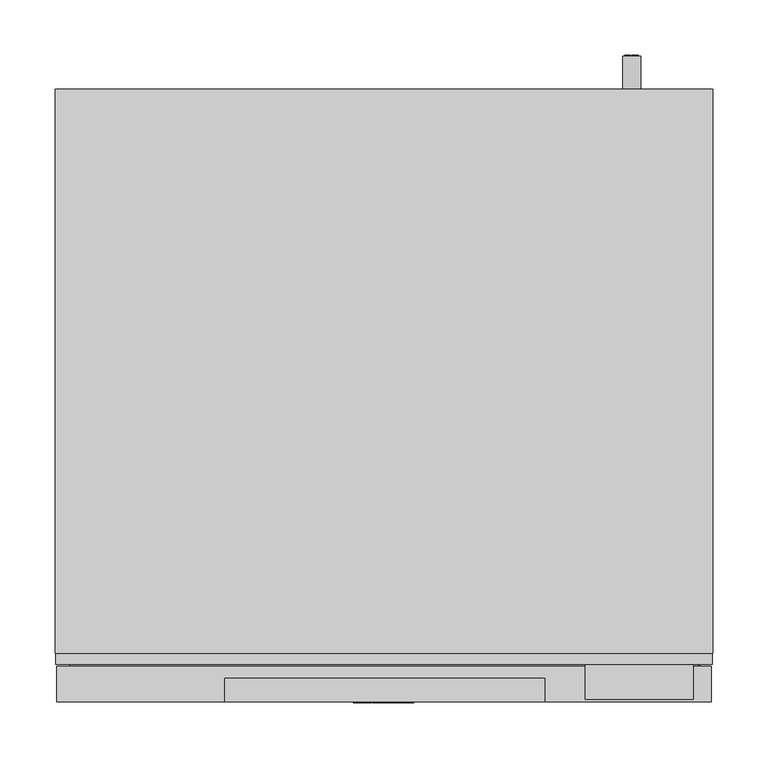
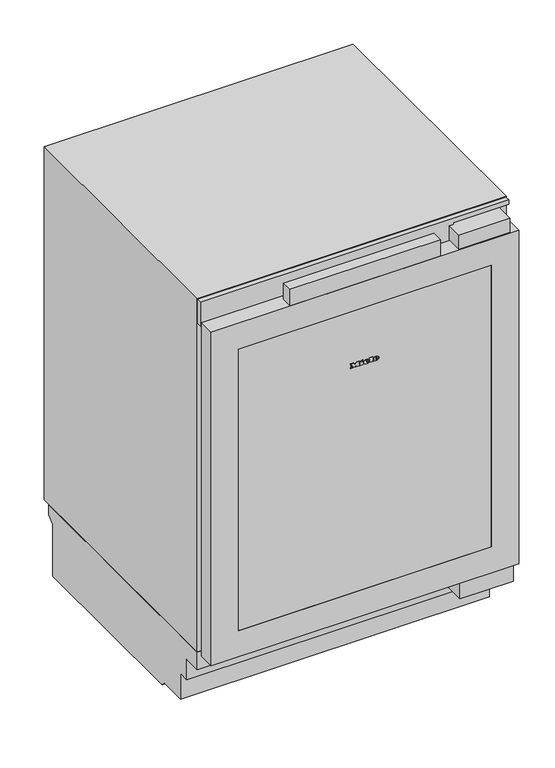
"""IFC4 building model written with IfcOpenShell, lengths in millimetres: proxy geometry, 12519520_USA_KWTUS7172F : 39717210_USA_12519520_KWTUS7172F."""

from ifc_helpers import new_model, si_unit, point, frame, frame_2d, origin, origin_with_axes, place, context, project, spatial, polyline, circle_curve, ellipse_curve, trimmed, segment, composite_curve, outline, extrude, faceted_brep, source, transform, mapped, element, save
from ifc_brep_helpers import plane_surface, cylinder_surface, revolved_surface, extruded_surface, advanced_brep


def specialty_equipment_1e41febc(model_context):
    return source(origin(), model_context, "Body", "SolidModel", [
        extrude(outline(polyline([(656.533, -28.017), (656.533, -26.928), (650.512, -26.928), (650.512, -28.017), (649.0, -28.017), (649.0, -24.057), (650.512, -24.057), (650.512, -25.137), (654.3341247, -25.137), (649.0, -21.114), (654.4402223, -17.073), (650.512, -17.073), (650.512, -18.18), (649.0, -18.18), (649.0, -10.998), (650.512, -10.998), (650.512, -12.141), (656.533, -12.141), (656.533, -10.998), (658.0, -10.998), (658.0, -16.479), (654.625, -19.107), (658.0, -21.744), (658.0, -28.017), (656.533, -28.017)])), frame((0.0, -1.0, 0.0), z_axis=(0.0, 1.0, 0.0), x_axis=(0.0, 0.0, 1.0)), (0.0, 0.0, 1.0), 1.0),
        extrude(outline(polyline([(656.533, 8.505), (656.533, 9.585), (650.512, 9.585), (650.512, 8.505), (649.0, 8.505), (649.0, 15.804), (650.512, 15.804), (650.512, 14.697), (658.0, 14.697), (658.0, 8.505), (656.533, 8.505)])), frame((0.0, -1.0, 0.0), z_axis=(0.0, 1.0, 0.0), x_axis=(0.0, 0.0, 1.0)), (0.0, 0.0, 1.0), 1.0),
        extrude(outline(polyline([(657.469, -7.857), (656.011, -7.173), (657.433, -4.122), (658.891, -4.797), (657.469, -7.857)])), frame((0.0, -1.0, 0.0), z_axis=(0.0, 1.0, 0.0), x_axis=(0.0, 0.0, 1.0)), (0.0, 0.0, 1.0), 1.0),
        extrude(outline(polyline([(655.813, -10.08), (654.202, -10.08), (654.202, -9.009), (650.512, -9.009), (650.512, -10.08), (649.0, -10.08), (649.0, -2.979), (650.512, -2.979), (650.512, -4.023), (655.813, -4.023), (655.813, -10.08)])), frame((0.0, -1.0, 0.0), z_axis=(0.0, 1.0, 0.0), x_axis=(0.0, 0.0, 1.0)), (0.0, 0.0, 1.0), 1.0),
        advanced_brep(
        [(1.98, -1.0, 651.133), (1.98, -1.0, 652.042), (8.001, -1.0, 652.042), (-2.475, -1.0, 652.042), (0.0, -1.0, 649.0), (7.848, -1.0, 651.133), (5.13, -1.0, 651.133), (2.988, -1.0, 650.125), (1.98, -1.0, 653.194), (1.98, -1.0, 654.175), (3.519, -1.0, 654.175), (3.519, -1.0, 653.194), (1.98, 0.0, 651.133), (2.988, 0.0, 650.125), (5.13, 0.0, 651.133), (7.848, 0.0, 651.133), (0.0, 0.0, 649.0), (-2.475, 0.0, 652.042), (8.001, 0.0, 652.042), (1.98, 0.0, 652.042), (1.98, 0.0, 653.194), (3.519, 0.0, 653.194), (3.519, 0.0, 654.175), (1.98, 0.0, 654.175)],
        [
            (0, 1),
            (1, 2),
            (2, 3, ellipse_curve(frame((2.763, -1.0, 652.042), z_axis=(0.0, -1.0, 0.0), x_axis=(-1.0, 0.0, 0.0)), 5.238, 4.329)),
            (3, 4, circle_curve(frame((1.0080491, -1.0, 652.348), z_axis=(0.0, -1.0, 0.0), x_axis=(0.0, 0.0, -1.0)), 3.4964649)),
            (4, 5, circle_curve(frame((2.6581428, -1.0, 654.724), z_axis=(0.0, -1.0, 0.0), x_axis=(0.0, 0.0, -1.0)), 6.3110933)),
            (5, 6),
            (6, 7, circle_curve(frame((3.4279412, -1.0, 651.97), z_axis=(0.0, 1.0, 0.0), x_axis=(0.0, 0.0, -1.0)), 1.896727)),
            (7, 0, circle_curve(frame((2.988, -1.0, 651.133), z_axis=(0.0, 1.0, 0.0), x_axis=(0.0, 0.0, -1.0)), 1.008)),
            (8, 9),
            (9, 10, circle_curve(frame((2.7495, -1.0, 654.175), z_axis=(0.0, 1.0, 0.0), x_axis=(0.0, 0.0, -1.0)), 0.7695)),
            (10, 11),
            (11, 8),
            (12, 13, circle_curve(frame((2.988, 0.0, 651.133), z_axis=(0.0, -1.0, 0.0), x_axis=(0.0, 0.0, -1.0)), 1.008)),
            (13, 14, circle_curve(frame((3.4279412, 0.0, 651.97), z_axis=(0.0, -1.0, 0.0), x_axis=(0.0, 0.0, -1.0)), 1.896727)),
            (14, 15),
            (15, 16, circle_curve(frame((2.6581428, 0.0, 654.724), z_axis=(0.0, 1.0, 0.0), x_axis=(0.0, 0.0, -1.0)), 6.3110933)),
            (16, 17, circle_curve(frame((1.0080491, 0.0, 652.348), z_axis=(0.0, 1.0, 0.0), x_axis=(0.0, 0.0, -1.0)), 3.4964649)),
            (17, 18, ellipse_curve(frame((2.763, 0.0, 652.042), z_axis=(0.0, 1.0, 0.0), x_axis=(-1.0, 0.0, 0.0)), 5.238, 4.329)),
            (18, 19),
            (19, 12),
            (20, 21),
            (21, 22),
            (22, 23, circle_curve(frame((2.7495, 0.0, 654.175), z_axis=(0.0, -1.0, 0.0), x_axis=(0.0, 0.0, -1.0)), 0.7695)),
            (23, 20),
            (0, 12),
            (19, 1),
            (18, 2),
            (5, 15),
            (14, 6),
            (17, 3),
            (13, 7),
            (16, 4),
            (8, 20),
            (23, 9),
            (22, 10),
            (21, 11),
        ],
        [
            plane_surface(frame((1.98, -1.0, 652.042), z_axis=(0.0, -1.0, 0.0), x_axis=(0.0, 0.0, 1.0))),
            plane_surface(frame((1.98, 0.0, 652.042), z_axis=(0.0, 1.0, 0.0), x_axis=(0.0, 0.0, -1.0))),
            plane_surface(frame((1.98, -1.0, 651.133), z_axis=(1.0, 0.0, 0.0), x_axis=(0.0, 1.0, 0.0))),
            plane_surface(frame((1.98, -1.0, 652.042), z_axis=(0.0, 0.0, -1.0), x_axis=(0.0, 1.0, 0.0))),
            plane_surface(frame((7.848, -1.0, 651.133), z_axis=(0.0, 0.0, 1.0), x_axis=(0.0, 1.0, 0.0))),
            extruded_surface(trimmed(ellipse_curve(frame((2.763, 1.0, 652.042), z_axis=(0.0, -1.0, 0.0), x_axis=(-1.0, 0.0, 0.0)), 5.238, 4.329), [point((8.001, 1.0, 652.042))], [point((-2.475, 1.0, 652.042))], True, "CARTESIAN"), (0.0, -1.0, 0.0), 1.0),
            revolved_surface(polyline([(3.4279412, 0.0, 650.073273), (3.4279412, -1.0, 650.073273)]), (3.4279412, 0.0, 651.97), (0.0, 1.0, 0.0)),
            revolved_surface(polyline([(2.988, 0.0, 650.125), (2.988, -1.0, 650.125)]), (2.988, 0.0, 651.133), (0.0, 1.0, 0.0)),
            cylinder_surface(frame((1.0080491, 0.0, 652.348), z_axis=(0.0, -1.0, 0.0), x_axis=(0.0, 0.0, -1.0)), 3.4964649),
            cylinder_surface(frame((2.6581428, 0.0, 654.724), z_axis=(0.0, -1.0, 0.0), x_axis=(0.0, 0.0, -1.0)), 6.3110933),
            plane_surface(frame((1.98, -1.0, 653.194), z_axis=(1.0, 0.0, 0.0), x_axis=(0.0, 1.0, 0.0))),
            revolved_surface(polyline([(2.7495, 0.0, 653.4055), (2.7495, -1.0, 653.4055)]), (2.7495, 0.0, 654.175), (0.0, 1.0, 0.0)),
            plane_surface(frame((3.519, -1.0, 654.175), z_axis=(-1.0, 0.0, 0.0), x_axis=(0.0, 1.0, 0.0))),
            plane_surface(frame((3.519, -1.0, 653.194), z_axis=(0.0, 0.0, 1.0), x_axis=(0.0, 1.0, 0.0))),
        ],
        [
            (0, [[1, 2, 3, 4, 5, 6, 7, 8], [9, 10, 11, 12]]),
            (1, [[13, 14, 15, 16, 17, 18, 19, 20], [21, 22, 23, 24]]),
            (2, [[-1, 25, -20, 26]]),
            (3, [[-2, -26, -19, 27]]),
            (4, [[-6, 28, -15, 29]]),
            (5, [[-3, -27, -18, 30]]),
            (6, [[-7, -29, -14, 31]]),
            (7, [[-8, -31, -13, -25]]),
            (8, [[-4, -30, -17, 32]]),
            (9, [[-5, -32, -16, -28]]),
            (10, [[-9, 33, -24, 34]]),
            (11, [[-10, -34, -23, 35]]),
            (12, [[-11, -35, -22, 36]]),
            (13, [[-12, -36, -21, -33]]),
        ],
    ),
        advanced_brep(
        [(20.763, -1.0, 651.133), (20.763, -1.0, 652.042), (26.784, -1.0, 652.042), (16.308, -1.0, 652.042), (18.783, -1.0, 649.0), (26.631, -1.0, 651.133), (23.913, -1.0, 651.133), (21.771, -1.0, 650.125), (20.763, -1.0, 653.194), (20.763, -1.0, 654.175), (22.302, -1.0, 654.175), (22.302, -1.0, 653.194), (20.763, 0.0, 651.133), (21.771, 0.0, 650.125), (23.913, 0.0, 651.133), (26.631, 0.0, 651.133), (18.783, 0.0, 649.0), (16.308, 0.0, 652.042), (26.784, 0.0, 652.042), (20.763, 0.0, 652.042), (20.763, 0.0, 653.194), (22.302, 0.0, 653.194), (22.302, 0.0, 654.175), (20.763, 0.0, 654.175)],
        [
            (0, 1),
            (1, 2),
            (2, 3, ellipse_curve(frame((21.546, -1.0, 652.042), z_axis=(0.0, -1.0, 0.0), x_axis=(-1.0, 0.0, 0.0)), 5.238, 4.329)),
            (3, 4, circle_curve(frame((19.7910491, -1.0, 652.348), z_axis=(0.0, -1.0, 0.0), x_axis=(0.0, 0.0, -1.0)), 3.4964649)),
            (4, 5, circle_curve(frame((21.4411428, -1.0, 654.724), z_axis=(0.0, -1.0, 0.0), x_axis=(0.0, 0.0, -1.0)), 6.3110933)),
            (5, 6),
            (6, 7, circle_curve(frame((22.2109412, -1.0, 651.97), z_axis=(0.0, 1.0, 0.0), x_axis=(0.0, 0.0, -1.0)), 1.896727)),
            (7, 0, circle_curve(frame((21.771, -1.0, 651.133), z_axis=(0.0, 1.0, 0.0), x_axis=(0.0, 0.0, -1.0)), 1.008)),
            (8, 9),
            (9, 10, circle_curve(frame((21.5325, -1.0, 654.175), z_axis=(0.0, 1.0, 0.0), x_axis=(0.0, 0.0, -1.0)), 0.7695)),
            (10, 11),
            (11, 8),
            (12, 13, circle_curve(frame((21.771, 0.0, 651.133), z_axis=(0.0, -1.0, 0.0), x_axis=(0.0, 0.0, -1.0)), 1.008)),
            (13, 14, circle_curve(frame((22.2109412, 0.0, 651.97), z_axis=(0.0, -1.0, 0.0), x_axis=(0.0, 0.0, -1.0)), 1.896727)),
            (14, 15),
            (15, 16, circle_curve(frame((21.4411428, 0.0, 654.724), z_axis=(0.0, 1.0, 0.0), x_axis=(0.0, 0.0, -1.0)), 6.3110933)),
            (16, 17, circle_curve(frame((19.7910491, 0.0, 652.348), z_axis=(0.0, 1.0, 0.0), x_axis=(0.0, 0.0, -1.0)), 3.4964649)),
            (17, 18, ellipse_curve(frame((21.546, 0.0, 652.042), z_axis=(0.0, 1.0, 0.0), x_axis=(-1.0, 0.0, 0.0)), 5.238, 4.329)),
            (18, 19),
            (19, 12),
            (20, 21),
            (21, 22),
            (22, 23, circle_curve(frame((21.5325, 0.0, 654.175), z_axis=(0.0, -1.0, 0.0), x_axis=(0.0, 0.0, -1.0)), 0.7695)),
            (23, 20),
            (0, 12),
            (19, 1),
            (18, 2),
            (5, 15),
            (14, 6),
            (17, 3),
            (13, 7),
            (16, 4),
            (8, 20),
            (23, 9),
            (22, 10),
            (21, 11),
        ],
        [
            plane_surface(frame((20.763, -1.0, 652.042), z_axis=(0.0, -1.0, 0.0), x_axis=(0.0, 0.0, 1.0))),
            plane_surface(frame((20.763, 0.0, 652.042), z_axis=(0.0, 1.0, 0.0), x_axis=(0.0, 0.0, -1.0))),
            plane_surface(frame((20.763, -1.0, 651.133), z_axis=(1.0, 0.0, 0.0), x_axis=(0.0, 1.0, 0.0))),
            plane_surface(frame((20.763, -1.0, 652.042), z_axis=(0.0, 0.0, -1.0), x_axis=(0.0, 1.0, 0.0))),
            plane_surface(frame((26.631, -1.0, 651.133), z_axis=(0.0, 0.0, 1.0), x_axis=(0.0, 1.0, 0.0))),
            extruded_surface(trimmed(ellipse_curve(frame((21.546, 1.0, 652.042), z_axis=(0.0, -1.0, 0.0), x_axis=(-1.0, 0.0, 0.0)), 5.238, 4.329), [point((26.784, 1.0, 652.042))], [point((16.308, 1.0, 652.042))], True, "CARTESIAN"), (0.0, -1.0, 0.0), 1.0),
            revolved_surface(polyline([(22.2109412, 0.0, 650.073273), (22.2109412, -1.0, 650.073273)]), (22.2109412, 0.0, 651.97), (0.0, 1.0, 0.0)),
            revolved_surface(polyline([(21.771, 0.0, 650.125), (21.771, -1.0, 650.125)]), (21.771, 0.0, 651.133), (0.0, 1.0, 0.0)),
            cylinder_surface(frame((19.7910491, 0.0, 652.348), z_axis=(0.0, -1.0, 0.0), x_axis=(0.0, 0.0, -1.0)), 3.4964649),
            cylinder_surface(frame((21.4411428, 0.0, 654.724), z_axis=(0.0, -1.0, 0.0), x_axis=(0.0, 0.0, -1.0)), 6.3110933),
            plane_surface(frame((20.763, -1.0, 653.194), z_axis=(1.0, 0.0, 0.0), x_axis=(0.0, 1.0, 0.0))),
            revolved_surface(polyline([(21.5325, 0.0, 653.4055), (21.5325, -1.0, 653.4055)]), (21.5325, 0.0, 654.175), (0.0, 1.0, 0.0)),
            plane_surface(frame((22.302, -1.0, 654.175), z_axis=(-1.0, 0.0, 0.0), x_axis=(0.0, 1.0, 0.0))),
            plane_surface(frame((22.302, -1.0, 653.194), z_axis=(0.0, 0.0, 1.0), x_axis=(0.0, 1.0, 0.0))),
        ],
        [
            (0, [[1, 2, 3, 4, 5, 6, 7, 8], [9, 10, 11, 12]]),
            (1, [[13, 14, 15, 16, 17, 18, 19, 20], [21, 22, 23, 24]]),
            (2, [[-1, 25, -20, 26]]),
            (3, [[-2, -26, -19, 27]]),
            (4, [[-6, 28, -15, 29]]),
            (5, [[-3, -27, -18, 30]]),
            (6, [[-7, -29, -14, 31]]),
            (7, [[-8, -31, -13, -25]]),
            (8, [[-4, -30, -17, 32]]),
            (9, [[-5, -32, -16, -28]]),
            (10, [[-9, 33, -24, 34]]),
            (11, [[-10, -34, -23, 35]]),
            (12, [[-11, -35, -22, 36]]),
            (13, [[-12, -36, -21, -33]]),
        ],
    ),
        extrude(outline(polyline([(739.491, -85.038), (739.491, -83.949), (733.47, -83.949), (733.47, -85.038), (731.958, -85.038), (731.958, -81.078), (733.47, -81.078), (733.47, -82.158), (737.2921247, -82.158), (731.958, -78.135), (737.3982223, -74.094), (733.47, -74.094), (733.47, -75.201), (731.958, -75.201), (731.958, -68.019), (733.47, -68.019), (733.47, -69.162), (739.491, -69.162), (739.491, -68.019), (740.958, -68.019), (740.958, -73.5), (737.583, -76.128), (740.958, -78.765), (740.958, -85.038), (739.491, -85.038)])), frame((0.0, 50.0, 0.0), z_axis=(0.0, 1.0, 0.0), x_axis=(0.0, 0.0, 1.0)), (0.0, 0.0, 1.0), 1.0),
        extrude(outline(polyline([(739.491, -48.516), (739.491, -47.436), (733.47, -47.436), (733.47, -48.516), (731.958, -48.516), (731.958, -41.217), (733.47, -41.217), (733.47, -42.324), (740.958, -42.324), (740.958, -48.516), (739.491, -48.516)])), frame((0.0, 50.0, 0.0), z_axis=(0.0, 1.0, 0.0), x_axis=(0.0, 0.0, 1.0)), (0.0, 0.0, 1.0), 1.0),
        extrude(outline(polyline([(740.427, -64.878), (738.969, -64.194), (740.391, -61.143), (741.849, -61.818), (740.427, -64.878)])), frame((0.0, 50.0, 0.0), z_axis=(0.0, 1.0, 0.0), x_axis=(0.0, 0.0, 1.0)), (0.0, 0.0, 1.0), 1.0),
        extrude(outline(polyline([(738.771, -67.101), (737.16, -67.101), (737.16, -66.03), (733.47, -66.03), (733.47, -67.101), (731.958, -67.101), (731.958, -60.0), (733.47, -60.0), (733.47, -61.044), (738.771, -61.044), (738.771, -67.101)])), frame((0.0, 50.0, 0.0), z_axis=(0.0, 1.0, 0.0), x_axis=(0.0, 0.0, 1.0)), (0.0, 0.0, 1.0), 1.0),
        advanced_brep(
        [(-55.041, 50.0, 734.091), (-55.041, 50.0, 735.0), (-49.02, 50.0, 735.0), (-59.496, 50.0, 735.0), (-57.021, 50.0, 731.958), (-49.173, 50.0, 734.091), (-51.891, 50.0, 734.091), (-54.033, 50.0, 733.083), (-55.041, 50.0, 736.152), (-55.041, 50.0, 737.133), (-53.502, 50.0, 737.133), (-53.502, 50.0, 736.152), (-55.041, 51.0, 734.091), (-54.033, 51.0, 733.083), (-51.891, 51.0, 734.091), (-49.173, 51.0, 734.091), (-57.021, 51.0, 731.958), (-59.496, 51.0, 735.0), (-49.02, 51.0, 735.0), (-55.041, 51.0, 735.0), (-55.041, 51.0, 736.152), (-53.502, 51.0, 736.152), (-53.502, 51.0, 737.133), (-55.041, 51.0, 737.133)],
        [
            (0, 1),
            (1, 2),
            (2, 3, ellipse_curve(frame((-54.258, 50.0, 735.0), z_axis=(0.0, -1.0, 0.0), x_axis=(-1.0, 0.0, 0.0)), 5.238, 4.329)),
            (3, 4, circle_curve(frame((-56.0129509, 50.0, 735.306), z_axis=(0.0, -1.0, 0.0), x_axis=(0.0, 0.0, -1.0)), 3.4964649)),
            (4, 5, circle_curve(frame((-54.3628572, 50.0, 737.682), z_axis=(0.0, -1.0, 0.0), x_axis=(0.0, 0.0, -1.0)), 6.3110933)),
            (5, 6),
            (6, 7, circle_curve(frame((-53.5930588, 50.0, 734.928), z_axis=(0.0, 1.0, 0.0), x_axis=(0.0, 0.0, -1.0)), 1.896727)),
            (7, 0, circle_curve(frame((-54.033, 50.0, 734.091), z_axis=(0.0, 1.0, 0.0), x_axis=(0.0, 0.0, -1.0)), 1.008)),
            (8, 9),
            (9, 10, circle_curve(frame((-54.2715, 50.0, 737.133), z_axis=(0.0, 1.0, 0.0), x_axis=(0.0, 0.0, -1.0)), 0.7695)),
            (10, 11),
            (11, 8),
            (12, 13, circle_curve(frame((-54.033, 51.0, 734.091), z_axis=(0.0, -1.0, 0.0), x_axis=(0.0, 0.0, -1.0)), 1.008)),
            (13, 14, circle_curve(frame((-53.5930588, 51.0, 734.928), z_axis=(0.0, -1.0, 0.0), x_axis=(0.0, 0.0, -1.0)), 1.896727)),
            (14, 15),
            (15, 16, circle_curve(frame((-54.3628572, 51.0, 737.682), z_axis=(0.0, 1.0, 0.0), x_axis=(0.0, 0.0, -1.0)), 6.3110933)),
            (16, 17, circle_curve(frame((-56.0129509, 51.0, 735.306), z_axis=(0.0, 1.0, 0.0), x_axis=(0.0, 0.0, -1.0)), 3.4964649)),
            (17, 18, ellipse_curve(frame((-54.258, 51.0, 735.0), z_axis=(0.0, 1.0, 0.0), x_axis=(-1.0, 0.0, 0.0)), 5.238, 4.329)),
            (18, 19),
            (19, 12),
            (20, 21),
            (21, 22),
            (22, 23, circle_curve(frame((-54.2715, 51.0, 737.133), z_axis=(0.0, -1.0, 0.0), x_axis=(0.0, 0.0, -1.0)), 0.7695)),
            (23, 20),
            (0, 12),
            (19, 1),
            (18, 2),
            (5, 15),
            (14, 6),
            (17, 3),
            (13, 7),
            (16, 4),
            (8, 20),
            (23, 9),
            (22, 10),
            (21, 11),
        ],
        [
            plane_surface(frame((-55.041, 50.0, 735.0), z_axis=(0.0, -1.0, 0.0), x_axis=(0.0, 0.0, 1.0))),
            plane_surface(frame((-55.041, 51.0, 735.0), z_axis=(0.0, 1.0, 0.0), x_axis=(0.0, 0.0, -1.0))),
            plane_surface(frame((-55.041, 50.0, 734.091), z_axis=(1.0, 0.0, 0.0), x_axis=(0.0, 1.0, 0.0))),
            plane_surface(frame((-55.041, 50.0, 735.0), z_axis=(0.0, 0.0, -1.0), x_axis=(0.0, 1.0, 0.0))),
            plane_surface(frame((-49.173, 50.0, 734.091), z_axis=(0.0, 0.0, 1.0), x_axis=(0.0, 1.0, 0.0))),
            extruded_surface(trimmed(ellipse_curve(frame((-54.258, 52.0, 735.0), z_axis=(0.0, -1.0, 0.0), x_axis=(-1.0, 0.0, 0.0)), 5.238, 4.329), [point((-49.02, 52.0, 735.0))], [point((-59.496, 52.0, 735.0))], True, "CARTESIAN"), (0.0, -1.0, 0.0), 1.0),
            revolved_surface(polyline([(-53.5930588, 51.0, 733.0312729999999), (-53.5930588, 50.0, 733.0312729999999)]), (-53.5930588, 51.0, 734.928), (0.0, 1.0, 0.0)),
            revolved_surface(polyline([(-54.033, 51.0, 733.083), (-54.033, 50.0, 733.083)]), (-54.033, 51.0, 734.091), (0.0, 1.0, 0.0)),
            cylinder_surface(frame((-56.0129509, 51.0, 735.306), z_axis=(0.0, -1.0, 0.0), x_axis=(0.0, 0.0, -1.0)), 3.4964649),
            cylinder_surface(frame((-54.3628572, 51.0, 737.682), z_axis=(0.0, -1.0, 0.0), x_axis=(0.0, 0.0, -1.0)), 6.3110933),
            plane_surface(frame((-55.041, 50.0, 736.152), z_axis=(1.0, 0.0, 0.0), x_axis=(0.0, 1.0, 0.0))),
            revolved_surface(polyline([(-54.2715, 51.0, 736.3635), (-54.2715, 50.0, 736.3635)]), (-54.2715, 51.0, 737.133), (0.0, 1.0, 0.0)),
            plane_surface(frame((-53.502, 50.0, 737.133), z_axis=(-1.0, 0.0, 0.0), x_axis=(0.0, 1.0, 0.0))),
            plane_surface(frame((-53.502, 50.0, 736.152), z_axis=(0.0, 0.0, 1.0), x_axis=(0.0, 1.0, 0.0))),
        ],
        [
            (0, [[1, 2, 3, 4, 5, 6, 7, 8], [9, 10, 11, 12]]),
            (1, [[13, 14, 15, 16, 17, 18, 19, 20], [21, 22, 23, 24]]),
            (2, [[-1, 25, -20, 26]]),
            (3, [[-2, -26, -19, 27]]),
            (4, [[-6, 28, -15, 29]]),
            (5, [[-3, -27, -18, 30]]),
            (6, [[-7, -29, -14, 31]]),
            (7, [[-8, -31, -13, -25]]),
            (8, [[-4, -30, -17, 32]]),
            (9, [[-5, -32, -16, -28]]),
            (10, [[-9, 33, -24, 34]]),
            (11, [[-10, -34, -23, 35]]),
            (12, [[-11, -35, -22, 36]]),
            (13, [[-12, -36, -21, -33]]),
        ],
    ),
        advanced_brep(
        [(-36.258, 50.0, 734.091), (-36.258, 50.0, 735.0), (-30.237, 50.0, 735.0), (-40.713, 50.0, 735.0), (-38.238, 50.0, 731.958), (-30.39, 50.0, 734.091), (-33.108, 50.0, 734.091), (-35.25, 50.0, 733.083), (-36.258, 50.0, 736.152), (-36.258, 50.0, 737.133), (-34.719, 50.0, 737.133), (-34.719, 50.0, 736.152), (-36.258, 51.0, 734.091), (-35.25, 51.0, 733.083), (-33.108, 51.0, 734.091), (-30.39, 51.0, 734.091), (-38.238, 51.0, 731.958), (-40.713, 51.0, 735.0), (-30.237, 51.0, 735.0), (-36.258, 51.0, 735.0), (-36.258, 51.0, 736.152), (-34.719, 51.0, 736.152), (-34.719, 51.0, 737.133), (-36.258, 51.0, 737.133)],
        [
            (0, 1),
            (1, 2),
            (2, 3, ellipse_curve(frame((-35.475, 50.0, 735.0), z_axis=(0.0, -1.0, 0.0), x_axis=(-1.0, 0.0, 0.0)), 5.238, 4.329)),
            (3, 4, circle_curve(frame((-37.2299509, 50.0, 735.306), z_axis=(0.0, -1.0, 0.0), x_axis=(0.0, 0.0, -1.0)), 3.4964649)),
            (4, 5, circle_curve(frame((-35.5798572, 50.0, 737.682), z_axis=(0.0, -1.0, 0.0), x_axis=(0.0, 0.0, -1.0)), 6.3110933)),
            (5, 6),
            (6, 7, circle_curve(frame((-34.8100588, 50.0, 734.928), z_axis=(0.0, 1.0, 0.0), x_axis=(0.0, 0.0, -1.0)), 1.896727)),
            (7, 0, circle_curve(frame((-35.25, 50.0, 734.091), z_axis=(0.0, 1.0, 0.0), x_axis=(0.0, 0.0, -1.0)), 1.008)),
            (8, 9),
            (9, 10, circle_curve(frame((-35.4885, 50.0, 737.133), z_axis=(0.0, 1.0, 0.0), x_axis=(0.0, 0.0, -1.0)), 0.7695)),
            (10, 11),
            (11, 8),
            (12, 13, circle_curve(frame((-35.25, 51.0, 734.091), z_axis=(0.0, -1.0, 0.0), x_axis=(0.0, 0.0, -1.0)), 1.008)),
            (13, 14, circle_curve(frame((-34.8100588, 51.0, 734.928), z_axis=(0.0, -1.0, 0.0), x_axis=(0.0, 0.0, -1.0)), 1.896727)),
            (14, 15),
            (15, 16, circle_curve(frame((-35.5798572, 51.0, 737.682), z_axis=(0.0, 1.0, 0.0), x_axis=(0.0, 0.0, -1.0)), 6.3110933)),
            (16, 17, circle_curve(frame((-37.2299509, 51.0, 735.306), z_axis=(0.0, 1.0, 0.0), x_axis=(0.0, 0.0, -1.0)), 3.4964649)),
            (17, 18, ellipse_curve(frame((-35.475, 51.0, 735.0), z_axis=(0.0, 1.0, 0.0), x_axis=(-1.0, 0.0, 0.0)), 5.238, 4.329)),
            (18, 19),
            (19, 12),
            (20, 21),
            (21, 22),
            (22, 23, circle_curve(frame((-35.4885, 51.0, 737.133), z_axis=(0.0, -1.0, 0.0), x_axis=(0.0, 0.0, -1.0)), 0.7695)),
            (23, 20),
            (0, 12),
            (19, 1),
            (18, 2),
            (5, 15),
            (14, 6),
            (17, 3),
            (13, 7),
            (16, 4),
            (8, 20),
            (23, 9),
            (22, 10),
            (21, 11),
        ],
        [
            plane_surface(frame((-36.258, 50.0, 735.0), z_axis=(0.0, -1.0, 0.0), x_axis=(0.0, 0.0, 1.0))),
            plane_surface(frame((-36.258, 51.0, 735.0), z_axis=(0.0, 1.0, 0.0), x_axis=(0.0, 0.0, -1.0))),
            plane_surface(frame((-36.258, 50.0, 734.091), z_axis=(1.0, 0.0, 0.0), x_axis=(0.0, 1.0, 0.0))),
            plane_surface(frame((-36.258, 50.0, 735.0), z_axis=(0.0, 0.0, -1.0), x_axis=(0.0, 1.0, 0.0))),
            plane_surface(frame((-30.39, 50.0, 734.091), z_axis=(0.0, 0.0, 1.0), x_axis=(0.0, 1.0, 0.0))),
            extruded_surface(trimmed(ellipse_curve(frame((-35.475, 52.0, 735.0), z_axis=(0.0, -1.0, 0.0), x_axis=(-1.0, 0.0, 0.0)), 5.238, 4.329), [point((-30.237, 52.0, 735.0))], [point((-40.713, 52.0, 735.0))], True, "CARTESIAN"), (0.0, -1.0, 0.0), 1.0),
            revolved_surface(polyline([(-34.8100588, 51.0, 733.0312729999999), (-34.8100588, 50.0, 733.0312729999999)]), (-34.8100588, 51.0, 734.928), (0.0, 1.0, 0.0)),
            revolved_surface(polyline([(-35.25, 51.0, 733.083), (-35.25, 50.0, 733.083)]), (-35.25, 51.0, 734.091), (0.0, 1.0, 0.0)),
            cylinder_surface(frame((-37.2299509, 51.0, 735.306), z_axis=(0.0, -1.0, 0.0), x_axis=(0.0, 0.0, -1.0)), 3.4964649),
            cylinder_surface(frame((-35.5798572, 51.0, 737.682), z_axis=(0.0, -1.0, 0.0), x_axis=(0.0, 0.0, -1.0)), 6.3110933),
            plane_surface(frame((-36.258, 50.0, 736.152), z_axis=(1.0, 0.0, 0.0), x_axis=(0.0, 1.0, 0.0))),
            revolved_surface(polyline([(-35.4885, 51.0, 736.3635), (-35.4885, 50.0, 736.3635)]), (-35.4885, 51.0, 737.133), (0.0, 1.0, 0.0)),
            plane_surface(frame((-34.719, 50.0, 737.133), z_axis=(-1.0, 0.0, 0.0), x_axis=(0.0, 1.0, 0.0))),
            plane_surface(frame((-34.719, 50.0, 736.152), z_axis=(0.0, 0.0, 1.0), x_axis=(0.0, 1.0, 0.0))),
        ],
        [
            (0, [[1, 2, 3, 4, 5, 6, 7, 8], [9, 10, 11, 12]]),
            (1, [[13, 14, 15, 16, 17, 18, 19, 20], [21, 22, 23, 24]]),
            (2, [[-1, 25, -20, 26]]),
            (3, [[-2, -26, -19, 27]]),
            (4, [[-6, 28, -15, 29]]),
            (5, [[-3, -27, -18, 30]]),
            (6, [[-7, -29, -14, 31]]),
            (7, [[-8, -31, -13, -25]]),
            (8, [[-4, -30, -17, 32]]),
            (9, [[-5, -32, -16, -28]]),
            (10, [[-9, 33, -24, 34]]),
            (11, [[-10, -34, -23, 35]]),
            (12, [[-11, -35, -22, 36]]),
            (13, [[-12, -36, -21, -33]]),
        ],
    ),
        extrude(outline(polyline([(607.7947388, -157.5), (612.5, -157.5), (616.5, -161.5), (616.5, -168.5), (612.5, -172.5), (607.7947388, -172.5), (607.7947388, -157.5)])), frame((0.0, 54.5000244, 0.0), z_axis=(0.0, 1.0, 0.0), x_axis=(0.0, 0.0, 1.0)), (0.0, 0.0, 1.0), 433.111792),
        extrude(outline(polyline([(607.7947388, -102.5), (612.5, -102.5), (616.5, -106.5), (616.5, -113.5), (612.5, -117.5), (607.7947388, -117.5), (607.7947388, -102.5)])), frame((0.0, 54.5000244, 0.0), z_axis=(0.0, 1.0, 0.0), x_axis=(0.0, 0.0, 1.0)), (0.0, 0.0, 1.0), 433.111792),
        extrude(outline(polyline([(607.7947388, 157.5), (607.7947388, 172.5), (612.5, 172.5), (616.5, 168.5), (616.5, 161.5), (612.5, 157.5), (607.7947388, 157.5)])), frame((0.0, 54.5000244, 0.0), z_axis=(0.0, 1.0, 0.0), x_axis=(0.0, 0.0, 1.0)), (0.0, 0.0, 1.0), 433.111792),
        extrude(outline(polyline([(607.7947388, 102.5), (607.7947388, 117.5), (612.5, 117.5), (616.5, 113.5), (616.5, 106.5), (612.5, 102.5), (607.7947388, 102.5)])), frame((0.0, 54.5000244, 0.0), z_axis=(0.0, 1.0, 0.0), x_axis=(0.0, 0.0, 1.0)), (0.0, 0.0, 1.0), 433.111792),
        extrude(outline(polyline([(607.7947388, -47.5), (612.5, -47.5), (616.5, -51.5), (616.5, -58.5), (612.5, -62.5), (607.7947388, -62.5), (607.7947388, -47.5)])), frame((0.0, 54.5000244, 0.0), z_axis=(0.0, 1.0, 0.0), x_axis=(0.0, 0.0, 1.0)), (0.0, 0.0, 1.0), 433.111792),
        extrude(outline(polyline([(607.7947388, 47.5), (607.7947388, 62.5), (612.5, 62.5), (616.5, 58.5), (616.5, 51.5), (612.5, 47.5), (607.7947388, 47.5)])), frame((0.0, 54.5000244, 0.0), z_axis=(0.0, 1.0, 0.0), x_axis=(0.0, 0.0, 1.0)), (0.0, 0.0, 1.0), 433.111792),
        extrude(outline(polyline([(607.7947388, 7.5), (612.5, 7.5), (616.5, 3.5), (616.5, -3.5), (612.5, -7.5), (607.7947388, -7.5), (607.7947388, 7.5)])), frame((0.0, 54.5000244, 0.0), z_axis=(0.0, 1.0, 0.0), x_axis=(0.0, 0.0, 1.0)), (0.0, 0.0, 1.0), 433.111792),
        extrude(outline(polyline([(518.3, -157.5), (523.0052612, -157.5), (527.0052612, -161.5), (527.0052612, -168.5), (523.0052612, -172.5), (518.3, -172.5), (518.3, -157.5)])), frame((0.0, 54.5000244, 0.0), z_axis=(0.0, 1.0, 0.0), x_axis=(0.0, 0.0, 1.0)), (0.0, 0.0, 1.0), 433.111792),
        extrude(outline(polyline([(518.3, -102.5), (523.0052612, -102.5), (527.0052612, -106.5), (527.0052612, -113.5), (523.0052612, -117.5), (518.3, -117.5), (518.3, -102.5)])), frame((0.0, 54.5000244, 0.0), z_axis=(0.0, 1.0, 0.0), x_axis=(0.0, 0.0, 1.0)), (0.0, 0.0, 1.0), 433.111792),
        extrude(outline(polyline([(518.3, 157.5), (518.3, 172.5), (523.0052612, 172.5), (527.0052612, 168.5), (527.0052612, 161.5), (523.0052612, 157.5), (518.3, 157.5)])), frame((0.0, 54.5000244, 0.0), z_axis=(0.0, 1.0, 0.0), x_axis=(0.0, 0.0, 1.0)), (0.0, 0.0, 1.0), 433.111792),
        extrude(outline(polyline([(518.3, 102.5), (518.3, 117.5), (523.0052612, 117.5), (527.0052612, 113.5), (527.0052612, 106.5), (523.0052612, 102.5), (518.3, 102.5)])), frame((0.0, 54.5000244, 0.0), z_axis=(0.0, 1.0, 0.0), x_axis=(0.0, 0.0, 1.0)), (0.0, 0.0, 1.0), 433.111792),
        extrude(outline(polyline([(518.3, -47.5), (523.0052612, -47.5), (527.0052612, -51.5), (527.0052612, -58.5), (523.0052612, -62.5), (518.3, -62.5), (518.3, -47.5)])), frame((0.0, 54.5000244, 0.0), z_axis=(0.0, 1.0, 0.0), x_axis=(0.0, 0.0, 1.0)), (0.0, 0.0, 1.0), 433.111792),
        extrude(outline(polyline([(518.3, 47.5), (518.3, 62.5), (523.0052612, 62.5), (527.0052612, 58.5), (527.0052612, 51.5), (523.0052612, 47.5), (518.3, 47.5)])), frame((0.0, 54.5000244, 0.0), z_axis=(0.0, 1.0, 0.0), x_axis=(0.0, 0.0, 1.0)), (0.0, 0.0, 1.0), 433.111792),
        extrude(outline(polyline([(518.3, 7.5), (523.0052612, 7.5), (527.0052612, 3.5), (527.0052612, -3.5), (523.0052612, -7.5), (518.3, -7.5), (518.3, 7.5)])), frame((0.0, 54.5000244, 0.0), z_axis=(0.0, 1.0, 0.0), x_axis=(0.0, 0.0, 1.0)), (0.0, 0.0, 1.0), 433.111792),
        extrude(outline(polyline([(427.8, -157.5), (432.5052612, -157.5), (436.5052612, -161.5), (436.5052612, -168.5), (432.5052612, -172.5), (427.8, -172.5), (427.8, -157.5)])), frame((0.0, 54.5000244, 0.0), z_axis=(0.0, 1.0, 0.0), x_axis=(0.0, 0.0, 1.0)), (0.0, 0.0, 1.0), 433.111792),
        extrude(outline(polyline([(427.8, -102.5), (432.5052612, -102.5), (436.5052612, -106.5), (436.5052612, -113.5), (432.5052612, -117.5), (427.8, -117.5), (427.8, -102.5)])), frame((0.0, 54.5000244, 0.0), z_axis=(0.0, 1.0, 0.0), x_axis=(0.0, 0.0, 1.0)), (0.0, 0.0, 1.0), 433.111792),
        extrude(outline(polyline([(427.8, 157.5), (427.8, 172.5), (432.5052612, 172.5), (436.5052612, 168.5), (436.5052612, 161.5), (432.5052612, 157.5), (427.8, 157.5)])), frame((0.0, 54.5000244, 0.0), z_axis=(0.0, 1.0, 0.0), x_axis=(0.0, 0.0, 1.0)), (0.0, 0.0, 1.0), 433.111792),
        extrude(outline(polyline([(427.8, 102.5), (427.8, 117.5), (432.5052612, 117.5), (436.5052612, 113.5), (436.5052612, 106.5), (432.5052612, 102.5), (427.8, 102.5)])), frame((0.0, 54.5000244, 0.0), z_axis=(0.0, 1.0, 0.0), x_axis=(0.0, 0.0, 1.0)), (0.0, 0.0, 1.0), 433.111792),
        extrude(outline(polyline([(427.8, -47.5), (432.5052612, -47.5), (436.5052612, -51.5), (436.5052612, -58.5), (432.5052612, -62.5), (427.8, -62.5), (427.8, -47.5)])), frame((0.0, 54.5000244, 0.0), z_axis=(0.0, 1.0, 0.0), x_axis=(0.0, 0.0, 1.0)), (0.0, 0.0, 1.0), 433.111792),
        extrude(outline(polyline([(427.8, 47.5), (427.8, 62.5), (432.5052612, 62.5), (436.5052612, 58.5), (436.5052612, 51.5), (432.5052612, 47.5), (427.8, 47.5)])), frame((0.0, 54.5000244, 0.0), z_axis=(0.0, 1.0, 0.0), x_axis=(0.0, 0.0, 1.0)), (0.0, 0.0, 1.0), 433.111792),
        extrude(outline(polyline([(427.8, 7.5), (432.5052612, 7.5), (436.5052612, 3.5), (436.5052612, -3.5), (432.5052612, -7.5), (427.8, -7.5), (427.8, 7.5)])), frame((0.0, 54.5000244, 0.0), z_axis=(0.0, 1.0, 0.0), x_axis=(0.0, 0.0, 1.0)), (0.0, 0.0, 1.0), 433.111792),
        extrude(outline(polyline([(278.8, -157.5), (283.5052612, -157.5), (287.5052612, -161.5), (287.5052612, -168.5), (283.5052612, -172.5), (278.8, -172.5), (278.8, -157.5)])), frame((0.0, 54.5000244, 0.0), z_axis=(0.0, 1.0, 0.0), x_axis=(0.0, 0.0, 1.0)), (0.0, 0.0, 1.0), 433.111792),
        extrude(outline(polyline([(278.8, -102.5), (283.5052612, -102.5), (287.5052612, -106.5), (287.5052612, -113.5), (283.5052612, -117.5), (278.8, -117.5), (278.8, -102.5)])), frame((0.0, 54.5000244, 0.0), z_axis=(0.0, 1.0, 0.0), x_axis=(0.0, 0.0, 1.0)), (0.0, 0.0, 1.0), 433.111792),
        extrude(outline(polyline([(278.8, 157.5), (278.8, 172.5), (283.5052612, 172.5), (287.5052612, 168.5), (287.5052612, 161.5), (283.5052612, 157.5), (278.8, 157.5)])), frame((0.0, 54.5000244, 0.0), z_axis=(0.0, 1.0, 0.0), x_axis=(0.0, 0.0, 1.0)), (0.0, 0.0, 1.0), 433.111792),
        extrude(outline(polyline([(278.8, 102.5), (278.8, 117.5), (283.5052612, 117.5), (287.5052612, 113.5), (287.5052612, 106.5), (283.5052612, 102.5), (278.8, 102.5)])), frame((0.0, 54.5000244, 0.0), z_axis=(0.0, 1.0, 0.0), x_axis=(0.0, 0.0, 1.0)), (0.0, 0.0, 1.0), 433.111792),
        extrude(outline(polyline([(278.8, -47.5), (283.5052612, -47.5), (287.5052612, -51.5), (287.5052612, -58.5), (283.5052612, -62.5), (278.8, -62.5), (278.8, -47.5)])), frame((0.0, 54.5000244, 0.0), z_axis=(0.0, 1.0, 0.0), x_axis=(0.0, 0.0, 1.0)), (0.0, 0.0, 1.0), 433.111792),
        extrude(outline(polyline([(278.8, 47.5), (278.8, 62.5), (283.5052612, 62.5), (287.5052612, 58.5), (287.5052612, 51.5), (283.5052612, 47.5), (278.8, 47.5)])), frame((0.0, 54.5000244, 0.0), z_axis=(0.0, 1.0, 0.0), x_axis=(0.0, 0.0, 1.0)), (0.0, 0.0, 1.0), 433.111792),
        extrude(outline(polyline([(278.8, 7.5), (283.5052612, 7.5), (287.5052612, 3.5), (287.5052612, -3.5), (283.5052612, -7.5), (278.8, -7.5), (278.8, 7.5)])), frame((0.0, 54.5000244, 0.0), z_axis=(0.0, 1.0, 0.0), x_axis=(0.0, 0.0, 1.0)), (0.0, 0.0, 1.0), 433.111792),
        extrude(outline(polyline([(238.5, 51.0000244), (-238.5, 51.0000244), (-238.5, 54.5000244), (238.5, 54.5000244), (238.5, 51.0000244)])), frame((0.0, 0.0, 186.0), z_axis=(0.0, 0.0, 1.0), x_axis=(1.0, 0.0, 0.0)), (0.0, 0.0, 1.0), 27.5),
        extrude(outline(polyline([(238.5, 51.0000244), (-238.5, 51.0000244), (-238.5, 54.5000244), (238.5, 54.5000244), (238.5, 51.0000244)])), frame((0.0, 0.0, 275.0), z_axis=(0.0, 0.0, 1.0), x_axis=(1.0, 0.0, 0.0)), (0.0, 0.0, 1.0), 27.5),
        extrude(outline(polyline([(249.0, -226.9226475), (249.0, -238.5), (181.0206134, -238.5), (181.0206134, -216.8069153), (231.4790485, -216.8069153), (249.0, -226.9226475)])), frame((0.0, 54.5000244, 0.0), z_axis=(0.0, 1.0, 0.0), x_axis=(0.0, 0.0, 1.0)), (0.0, 0.0, 1.0), 308.1981801),
        extrude(outline(polyline([(249.0, 226.9226475), (231.4790485, 216.8069153), (181.0206134, 216.8069153), (181.0206134, 238.5), (249.0, 238.5), (249.0, 226.9226475)])), frame((0.0, 54.5000244, 0.0), z_axis=(0.0, 1.0, 0.0), x_axis=(0.0, 0.0, 1.0)), (0.0, 0.0, 1.0), 308.1981801),
        extrude(outline(polyline([(238.5, 51.0000244), (-238.5, 51.0000244), (-238.5, 54.5000244), (238.5, 54.5000244), (238.5, 51.0000244)])), frame((0.0, 0.0, 604.0), z_axis=(0.0, 0.0, 1.0), x_axis=(1.0, 0.0, 0.0)), (0.0, 0.0, 1.0), 27.5),
        extrude(outline(polyline([(238.5, 51.0000244), (-238.5, 51.0000244), (-238.5, 54.5000244), (238.5, 54.5000244), (238.5, 51.0000244)])), frame((0.0, 0.0, 514.5), z_axis=(0.0, 0.0, 1.0), x_axis=(1.0, 0.0, 0.0)), (0.0, 0.0, 1.0), 27.5),
        extrude(outline(polyline([(238.5, 51.0000244), (-238.5, 51.0000244), (-238.5, 54.5000244), (238.5, 54.5000244), (238.5, 51.0000244)])), frame((0.0, 0.0, 424.0), z_axis=(0.0, 0.0, 1.0), x_axis=(1.0, 0.0, 0.0)), (0.0, 0.0, 1.0), 27.5),
        faceted_brep([(227.0, 51.0000244, 769.0), (-227.0, 51.0000244, 769.0), (-227.0, 51.0000244, 715.5838574), (227.0, 51.0000244, 715.5838574), (24.4663125, 51.0000244, 716.4573822), (-24.4663125, 51.0000244, 716.4573822), (-24.4663125, 51.0000244, 752.8698491), (24.4663125, 51.0000244, 752.8698491), (227.0, 487.6118164, 769.0), (227.0, 487.6118164, 715.5838574), (-227.0, 487.6118164, 715.5838574), (-227.0, 487.6118164, 769.0), (24.4663125, 80.5000244, 716.4573822), (24.4663125, 80.5000244, 752.8698491), (-24.4663125, 80.5000244, 752.8698491), (-24.4663125, 80.5000244, 716.4573822)], [[[0, 1, 2, 3], [4, 5, 6, 7]], [[8, 9, 10, 11]], [[1, 0, 8, 11]], [[2, 1, 11, 10]], [[3, 2, 10, 9]], [[0, 3, 9, 8]], [[12, 13, 14, 15]], [[12, 15, 5, 4]], [[15, 14, 6, 5]], [[14, 13, 7, 6]], [[13, 12, 4, 7]]]),
        extrude(outline(polyline([(238.5, 487.6118164), (-238.5, 487.6118164), (-238.5, 491.1118408), (238.5, 491.1118408), (238.5, 487.6118164)])), frame((0.0, 0.0, 514.5), z_axis=(0.0, 0.0, 1.0), x_axis=(1.0, 0.0, 0.0)), (0.0, 0.0, 1.0), 27.5),
        extrude(outline(polyline([(238.5, 487.6118164), (-238.5, 487.6118164), (-238.5, 491.1118408), (238.5, 491.1118408), (238.5, 487.6118164)])), frame((0.0, 0.0, 275.0), z_axis=(0.0, 0.0, 1.0), x_axis=(1.0, 0.0, 0.0)), (0.0, 0.0, 1.0), 27.5),
        extrude(outline(polyline([(238.5, 487.6118164), (-238.5, 487.6118164), (-238.5, 491.1118408), (238.5, 491.1118408), (238.5, 487.6118164)])), frame((0.0, 0.0, 604.0), z_axis=(0.0, 0.0, 1.0), x_axis=(1.0, 0.0, 0.0)), (0.0, 0.0, 1.0), 27.5),
        extrude(outline(polyline([(238.5, 51.0000244), (-238.5, 51.0000244), (-238.5, 54.5000244), (238.5, 54.5000244), (238.5, 51.0000244)])), frame((0.0, 0.0, 275.0), z_axis=(0.0, 0.0, 1.0), x_axis=(1.0, 0.0, 0.0)), (0.0, 0.0, 1.0), 27.5),
        extrude(outline(polyline([(238.5, 487.6118164), (-238.5, 487.6118164), (-238.5, 491.1118408), (238.5, 491.1118408), (238.5, 487.6118164)])), frame((0.0, 0.0, 424.0), z_axis=(0.0, 0.0, 1.0), x_axis=(1.0, 0.0, 0.0)), (0.0, 0.0, 1.0), 27.5),
        extrude(outline(polyline([(130.5000244, 189.7947388), (115.5000244, 189.7947388), (115.5000244, 194.5), (119.5000244, 198.5), (126.5000244, 198.5), (130.5000244, 194.5), (130.5000244, 189.7947388)])), frame((-216.555896, 0.0, 0.0), z_axis=(1.0, 0.0, 0.0), x_axis=(0.0, 1.0, 0.0)), (0.0, 0.0, 1.0), 433.111792),
        extrude(outline(polyline([(192.5000244, 189.7947388), (177.5000244, 189.7947388), (177.5000244, 194.5), (181.5000244, 198.5), (188.5000244, 198.5), (192.5000244, 194.5), (192.5000244, 189.7947388)])), frame((-216.555896, 0.0, 0.0), z_axis=(1.0, 0.0, 0.0), x_axis=(0.0, 1.0, 0.0)), (0.0, 0.0, 1.0), 433.111792),
        extrude(outline(polyline([(254.5000244, 189.7947388), (239.5000244, 189.7947388), (239.5000244, 194.5), (243.5000244, 198.5), (250.5000244, 198.5), (254.5000244, 194.5), (254.5000244, 189.7947388)])), frame((-216.555896, 0.0, 0.0), z_axis=(1.0, 0.0, 0.0), x_axis=(0.0, 1.0, 0.0)), (0.0, 0.0, 1.0), 433.111792),
        extrude(outline(polyline([(301.5000244, 189.7947388), (301.5000244, 194.5), (305.5000244, 198.5), (312.5000244, 198.5), (316.5000244, 194.5), (316.5000244, 189.7947388), (301.5000244, 189.7947388)])), frame((-216.555896, 0.0, 0.0), z_axis=(1.0, 0.0, 0.0), x_axis=(0.0, 1.0, 0.0)), (0.0, 0.0, 1.0), 433.111792),
        extrude(outline(polyline([(24.4663125, 51.0000244), (-24.4663125, 51.0000244), (-24.4663125, 80.5000244), (24.4663125, 80.5000244), (24.4663125, 51.0000244)])), frame((0.0, 0.0, 716.4573822), z_axis=(0.0, 0.0, 1.0), x_axis=(1.0, 0.0, 0.0)), (0.0, 0.0, 1.0), 36.4124668),
        extrude(outline(polyline([(238.5, 54.5000244), (219.7422474, 54.5000244), (219.7422474, 487.6118164), (238.5, 487.6118164), (238.5, 54.5000244)])), frame((0.0, 0.0, 424.0), z_axis=(0.0, 0.0, 1.0), x_axis=(1.0, 0.0, 0.0)), (0.0, 0.0, 1.0), 27.5),
        extrude(outline(polyline([(-219.7422474, 54.5000244), (-238.5, 54.5000244), (-238.5, 487.6118164), (-219.7422474, 487.6118164), (-219.7422474, 54.5000244)])), frame((0.0, 0.0, 424.0), z_axis=(0.0, 0.0, 1.0), x_axis=(1.0, 0.0, 0.0)), (0.0, 0.0, 1.0), 27.5),
        extrude(outline(polyline([(238.5, 54.5000244), (219.7422474, 54.5000244), (219.7422474, 487.6118164), (238.5, 487.6118164), (238.5, 54.5000244)])), frame((0.0, 0.0, 514.5), z_axis=(0.0, 0.0, 1.0), x_axis=(1.0, 0.0, 0.0)), (0.0, 0.0, 1.0), 27.5),
        extrude(outline(polyline([(-219.7422474, 54.5000244), (-238.5, 54.5000244), (-238.5, 487.6118164), (-219.7422474, 487.6118164), (-219.7422474, 54.5000244)])), frame((0.0, 0.0, 514.5), z_axis=(0.0, 0.0, 1.0), x_axis=(1.0, 0.0, 0.0)), (0.0, 0.0, 1.0), 27.5),
        extrude(outline(polyline([(238.5, 54.5000244), (219.7422474, 54.5000244), (219.7422474, 487.6118164), (238.5, 487.6118164), (238.5, 54.5000244)])), frame((0.0, 0.0, 604.0), z_axis=(0.0, 0.0, 1.0), x_axis=(1.0, 0.0, 0.0)), (0.0, 0.0, 1.0), 27.5),
        extrude(outline(polyline([(-219.7422474, 54.5000244), (-238.5, 54.5000244), (-238.5, 487.6118164), (-219.7422474, 487.6118164), (-219.7422474, 54.5000244)])), frame((0.0, 0.0, 604.0), z_axis=(0.0, 0.0, 1.0), x_axis=(1.0, 0.0, 0.0)), (0.0, 0.0, 1.0), 27.5),
        extrude(outline(polyline([(-219.7422474, 54.5000244), (-238.5, 54.5000244), (-238.5, 487.6118164), (-219.7422474, 487.6118164), (-219.7422474, 54.5000244)])), frame((0.0, 0.0, 275.0), z_axis=(0.0, 0.0, 1.0), x_axis=(1.0, 0.0, 0.0)), (0.0, 0.0, 1.0), 27.5),
        extrude(outline(polyline([(238.5, 54.5000244), (219.7422474, 54.5000244), (219.7422474, 487.6118164), (238.5, 487.6118164), (238.5, 54.5000244)])), frame((0.0, 0.0, 275.0), z_axis=(0.0, 0.0, 1.0), x_axis=(1.0, 0.0, 0.0)), (0.0, 0.0, 1.0), 27.5),
        extrude(outline(polyline([(857.6989746, 298.0), (857.6989746, -298.0), (808.7051238, -298.0), (808.7051238, 190.5), (849.0, 190.5), (849.0, 298.0), (857.6989746, 298.0)])), frame((0.0, 34.0937347, 0.0), z_axis=(0.0, 1.0, 0.0), x_axis=(0.0, 0.0, 1.0)), (0.0, 0.0, 1.0), 9.9062653),
        faceted_brep([(-298.5, 540.1, 137.8999939), (-298.5, 540.1, 117.6051112), (-298.5, 527.6, 105.1051112), (-298.5, 527.6, 0.0), (-298.5, 161.2567793, 0.0), (-298.5, 152.9391747, 8.3176046), (-298.5, 100.0, 8.3176046), (-298.5, 100.0, 60.7725754), (-298.5, 79.0216446, 60.7725754), (-298.5, 79.0216446, 101.8184894), (-298.5, 44.0, 101.8184894), (-298.5, 44.0, 137.8999939), (298.5, 540.1, 137.8999939), (298.5, 44.0, 137.8999939), (298.5, 44.0, 101.8184894), (298.5, 79.0216446, 101.8184894), (298.5, 79.0216446, 60.7725754), (298.5, 100.0, 60.7725754), (298.5, 100.0, 8.3176046), (298.5, 152.9391747, 8.3176046), (298.5, 161.2567793, 0.0), (298.5, 527.6, 0.0), (298.5, 527.6, 105.1051112), (298.5, 540.1, 117.6051112), (296.7000122, 463.8596389, 0.0), (256.5957336, 463.8596389, 0.0), (256.5957336, 399.1975098, 0.0), (296.7000122, 399.1975098, 0.0), (-296.7000122, 463.8596389, 0.0), (-296.7000122, 399.1975098, 0.0), (-256.5957336, 399.1975098, 0.0), (-256.5957336, 463.8596389, 0.0), (296.7000122, 463.8596389, 8.7371401), (296.7000122, 399.1975098, 8.7371401), (256.5957336, 399.1975098, 8.7371401), (256.5957336, 463.8596389, 8.7371401), (-296.7000122, 463.8596389, 8.7371401), (-256.5957336, 463.8596389, 8.7371401), (-256.5957336, 399.1975098, 8.7371401), (-296.7000122, 399.1975098, 8.7371401)], [[[0, 1, 2, 3, 4, 5, 6, 7, 8, 9, 10, 11]], [[12, 13, 14, 15, 16, 17, 18, 19, 20, 21, 22, 23]], [[0, 11, 13, 12]], [[11, 10, 14, 13]], [[10, 9, 15, 14]], [[9, 8, 16, 15]], [[8, 7, 17, 16]], [[7, 6, 18, 17]], [[6, 5, 19, 18]], [[5, 4, 20, 19]], [[4, 3, 21, 20], [24, 25, 26, 27], [28, 29, 30, 31]], [[3, 2, 22, 21]], [[2, 1, 23, 22]], [[1, 0, 12, 23]], [[32, 33, 34, 35]], [[36, 37, 38, 39]], [[32, 35, 25, 24]], [[35, 34, 26, 25]], [[34, 33, 27, 26]], [[33, 32, 24, 27]], [[36, 39, 29, 28]], [[39, 38, 30, 29]], [[38, 37, 31, 30]], [[37, 36, 28, 31]]]),
        faceted_brep([(298.5, 44.0, 859.0), (298.5, 44.0, 137.8999939), (298.5, 556.2, 137.8999939), (298.5, 556.2, 859.0), (-298.5, 44.0, 859.0), (-298.5, 556.2, 859.0), (-298.5, 556.2, 137.8999939), (-298.5, 44.0, 137.8999939), (250.0, 44.0, 759.0), (250.0, 44.0, 160.0), (-250.0, 44.0, 160.0), (-250.0, 44.0, 759.0), (250.0, 510.8638012, 160.0), (250.0, 510.8638012, 759.0), (-250.0, 510.8638012, 759.0), (-250.0, 510.8638012, 160.0)], [[[0, 1, 2, 3]], [[4, 5, 6, 7]], [[1, 0, 4, 7], [8, 9, 10, 11]], [[2, 1, 7, 6]], [[3, 2, 6, 5]], [[0, 3, 5, 4]], [[12, 13, 14, 15]], [[13, 12, 9, 8]], [[14, 13, 8, 11]], [[15, 14, 11, 10]], [[12, 15, 10, 9]]]),
        extrude(outline(polyline([(250.0, 510.8638012), (250.0, 339.3), (-250.0, 339.3), (-250.0, 510.8638012), (250.0, 510.8638012)])), frame((0.0, 0.0, 160.0), z_axis=(0.0, 0.0, 1.0), x_axis=(1.0, 0.0, 0.0)), (0.0, 0.0, 1.0), 61.8999939),
        extrude(outline(composite_curve([segment(trimmed(circle_curve(frame_2d((-270.8532135, 128.5)), 15.7049948), [point((-286.5582083, 128.5))], [point((-255.1482187, 128.5))], False, "CARTESIAN"), True, "CONTINUOUS"), segment(trimmed(circle_curve(frame_2d((-270.8532135, 128.5)), 15.7049948), [point((-255.1482187, 128.5))], [point((-286.5582083, 128.5))], False, "CARTESIAN"), True, "CONTINUOUS")], self_intersect=False)), origin_with_axes(), (0.0, 0.0, 1.0), 8.3176046),
        extrude(outline(composite_curve([segment(trimmed(circle_curve(frame_2d((270.8532135, 128.5)), 15.7049948), [point((286.5582083, 128.5))], [point((255.1482187, 128.5))], False, "CARTESIAN"), True, "CONTINUOUS"), segment(trimmed(circle_curve(frame_2d((270.8532135, 128.5)), 15.7049948), [point((255.1482187, 128.5))], [point((286.5582083, 128.5))], False, "CARTESIAN"), True, "CONTINUOUS")], self_intersect=False)), origin_with_axes(), (0.0, 0.0, 1.0), 8.3176046),
        extrude(outline(composite_curve([segment(trimmed(circle_curve(frame_2d((-275.822369, 427.2)), 16.0), [point((-291.822369, 427.2))], [point((-259.822369, 427.2))], False, "CARTESIAN"), True, "CONTINUOUS"), segment(trimmed(circle_curve(frame_2d((-275.822369, 427.2)), 16.0), [point((-259.822369, 427.2))], [point((-291.822369, 427.2))], False, "CARTESIAN"), True, "CONTINUOUS")], self_intersect=False)), origin_with_axes(), (0.0, 0.0, 1.0), 8.3176046),
        extrude(outline(composite_curve([segment(trimmed(circle_curve(frame_2d((275.822369, 427.2)), 16.0), [point((259.822369, 427.2))], [point((291.822369, 427.2))], False, "CARTESIAN"), True, "CONTINUOUS"), segment(trimmed(circle_curve(frame_2d((275.822369, 427.2)), 16.0), [point((291.822369, 427.2))], [point((259.822369, 427.2))], False, "CARTESIAN"), True, "CONTINUOUS")], self_intersect=False)), origin_with_axes(), (0.0, 0.0, 1.0), 8.3176046),
        extrude(outline(composite_curve([segment(trimmed(circle_curve(frame_2d((144.2460785, 224.8152695)), 8.0), [point((144.2460785, 216.8152695))], [point((144.2460785, 232.8152695))], False, "CARTESIAN"), True, "CONTINUOUS"), segment(trimmed(circle_curve(frame_2d((144.2460785, 224.8152695)), 8.0), [point((144.2460785, 232.8152695))], [point((144.2460785, 216.8152695))], False, "CARTESIAN"), True, "CONTINUOUS")], self_intersect=False)), frame((0.0, 556.2, 0.0), z_axis=(0.0, 1.0, 0.0), x_axis=(0.0, 0.0, 1.0)), (0.0, 0.0, 1.0), 30.0),
        extrude(outline(polyline([(140.2460785, 230.7170777), (148.2825833, 230.7170777), (148.2825833, 224.9408399), (147.2780202, 224.9408399), (147.2780202, 229.7125146), (144.8921828, 229.7125146), (144.8921828, 225.1919806), (143.8876197, 225.1919806), (143.8876197, 229.7125146), (141.2506416, 229.7125146), (141.2506416, 224.8152695), (140.2460785, 224.8152695), (140.2460785, 230.7170777)])), frame((0.0, 586.2, 0.0), z_axis=(0.0, 1.0, 0.0), x_axis=(0.0, 0.0, 1.0)), (0.0, 0.0, 1.0), 1.0),
        extrude(outline(polyline([(140.2460785, 223.3084248), (148.2825833, 223.3084248), (148.2825833, 222.3038617), (141.2506416, 222.3038617), (141.2506416, 218.2856093), (140.2460785, 218.2856093), (140.2460785, 223.3084248)])), frame((0.0, 586.2, 0.0), z_axis=(0.0, 1.0, 0.0), x_axis=(0.0, 0.0, 1.0)), (0.0, 0.0, 1.0), 1.0),
        extrude(outline(polyline([(280.7999573, 2.0229698), (182.5283813, 2.0229698), (182.5283813, 44.0), (280.7999573, 44.0), (280.7999573, 2.0229698)])), frame((0.0, 0.0, 817.0), z_axis=(0.0, 0.0, 1.0), x_axis=(1.0, 0.0, 0.0)), (0.0, 0.0, 1.0), 28.7067261),
        extrude(outline(polyline([(817.0, 297.0), (817.0, -297.0), (136.0, -297.0), (136.0, 297.0), (817.0, 297.0)]), holes=[polyline([(763.7351074, -244.25), (763.7351074, 244.25), (189.2351074, 244.25), (189.2351074, -244.25), (763.7351074, -244.25)])]), frame((0.0, 0.0, 0.0), z_axis=(0.0, 1.0, 0.0), x_axis=(0.0, 0.0, 1.0)), (0.0, 0.0, 1.0), 32.0),
        extrude(outline(polyline([(764.5, 285.0), (764.5, -285.0), (148.5030441, -285.0), (148.5030441, 285.0), (764.5, 285.0)]), holes=[polyline([(763.7351074, -244.25), (763.7351074, 244.25), (189.2351074, 244.25), (189.2351074, -244.25), (763.7351074, -244.25)])]), frame((0.0, 32.0, 0.0), z_axis=(0.0, 1.0, 0.0), x_axis=(0.0, 0.0, 1.0)), (0.0, 0.0, 1.0), 12.0),
        extrude(outline(polyline([(286.7815857, 0.0), (183.3378415, 0.0), (183.3378415, 44.0), (286.7815857, 44.0), (286.7815857, 0.0)])), frame((0.0, 0.0, 104.8), z_axis=(0.0, 0.0, 1.0), x_axis=(1.0, 0.0, 0.0)), (0.0, 0.0, 1.0), 31.2),
        extrude(outline(polyline([(145.8916609, 0.0), (-144.5463409, 0.0), (-144.5463409, 21.3009892), (145.8916609, 21.3009892), (145.8916609, 0.0)])), frame((0.0, 0.0, 817.0), z_axis=(0.0, 0.0, 1.0), x_axis=(1.0, 0.0, 0.0)), (0.0, 0.0, 1.0), 33.9378611),
        extrude(outline(polyline([(244.25, 0.0), (-244.25, 0.0), (-244.25, 21.3009892), (244.25, 21.3009892), (244.25, 0.0)])), frame((0.0, 0.0, 189.2351074), z_axis=(0.0, 0.0, 1.0), x_axis=(1.0, 0.0, 0.0)), (0.0, 0.0, 1.0), 574.5),
    ])


if __name__ == "__main__":
    model = new_model("IFC4")
    model_context = context("Model", 3, world=origin())
    ifc_project = project(units=[si_unit("LENGTHUNIT", "METRE", prefix="MILLI")], contexts=[model_context])
    site = spatial("IfcSite", under=ifc_project)
    building = spatial("IfcBuilding", under=site)
    placement = place(None, origin())
    specialty_equipment_shape = specialty_equipment_1e41febc(model_context)
    element("IfcBuildingElementProxy", 1, Name="12519520_USA_KWTUS7172F : 39717210_USA_12519520_KWTUS7172F", ObjectType="12519520_USA_KWTUS7172F : 39717210_USA_12519520_KWTUS7172F", at=placement, inside=building, context=model_context, shape_type="MappedRepresentation", body=[
        mapped(specialty_equipment_shape, transform((0.0, 0.0, 0.0), x_axis=(1.0, 0.0, 0.0), y_axis=(0.0, 1.0, 0.0), z_axis=(0.0, 0.0, 1.0))),
    ])
    save(model, "model.ifc")
